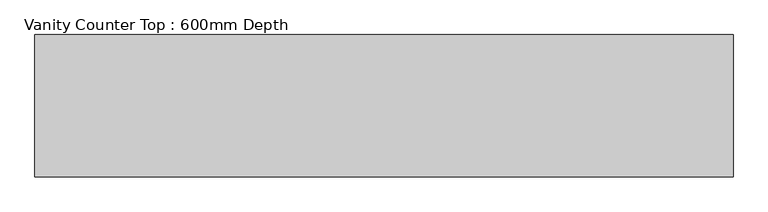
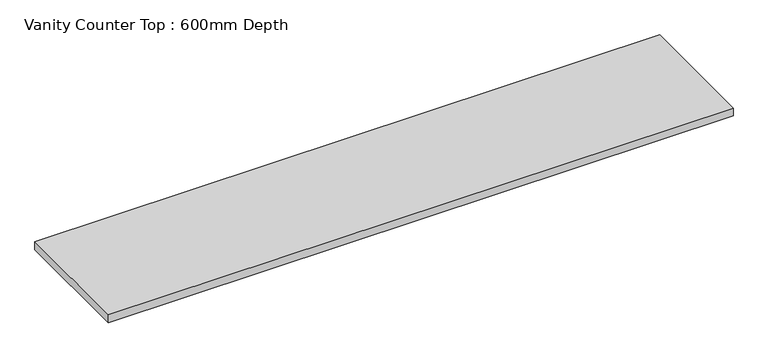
"""IFC4 building model written with IfcOpenShell, lengths in millimetres: furniture geometry, Vanity Counter Top : 600mm Depth."""

from ifc_helpers import new_model, si_unit, frame, origin, place, context, project, spatial, polyline, outline, extrude, source, transform, mapped, element, save


def vanity_counter_top_600mm_depth_b6b50156(model_context):
    return source(origin(), model_context, "Body", "SweptSolid", [
        extrude(outline(polyline([(1788.7384112, 0.0), (1788.7384112, -610.0), (-1200.4622951, -610.0), (-1200.4622951, 0.0), (1788.7384112, 0.0)])), frame((0.0, 0.0, 860.0), z_axis=(0.0, 0.0, 1.0), x_axis=(1.0, 0.0, 0.0)), (0.0, 0.0, 1.0), 40.0),
    ])


if __name__ == "__main__":
    model = new_model("IFC4")
    model_context = context("Model", 3, world=origin())
    ifc_project = project(units=[si_unit("LENGTHUNIT", "METRE", prefix="MILLI")], contexts=[model_context])
    site = spatial("IfcSite", under=ifc_project)
    building = spatial("IfcBuilding", under=site)
    placement = place(None, origin())
    vanity_counter_top_600mm_depth_shape = vanity_counter_top_600mm_depth_b6b50156(model_context)
    element("IfcFurniture", 1, ObjectType="Vanity Counter Top : 600mm Depth", at=placement, inside=building, context=model_context, shape_type="MappedRepresentation", body=[
        mapped(vanity_counter_top_600mm_depth_shape, transform((0.0, 0.0, 0.0), x_axis=(1.0, 0.0, 0.0), y_axis=(0.0, 1.0, 0.0), z_axis=(0.0, 0.0, 1.0))),
    ])
    save(model, "model.ifc")
